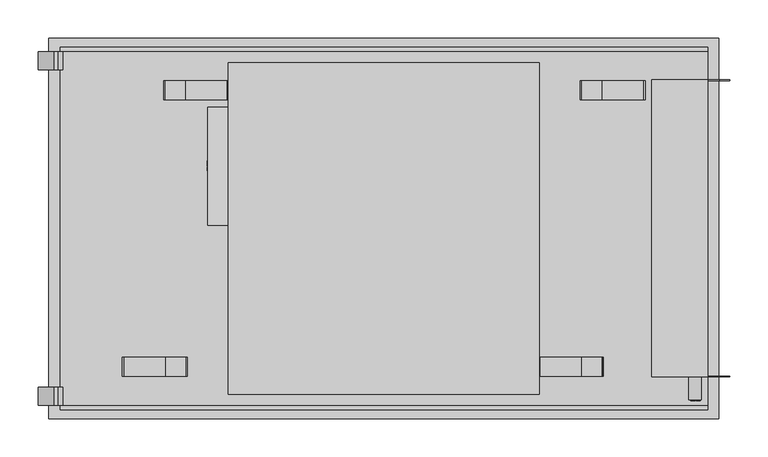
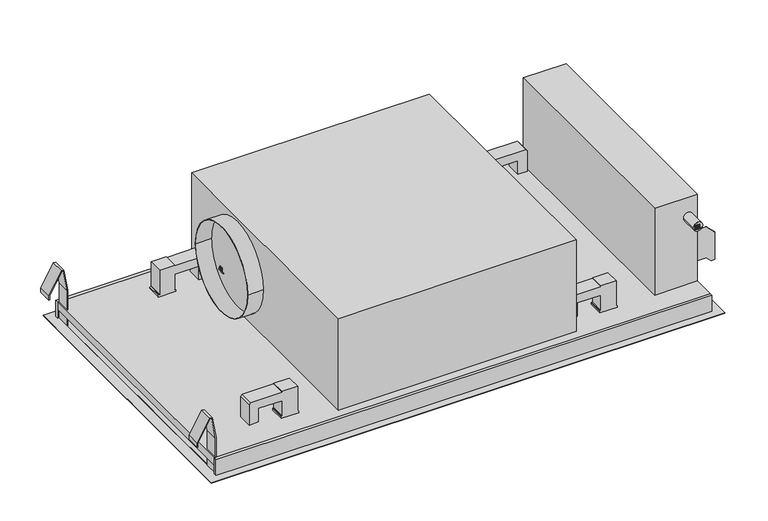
"""IFC4 building model written with IfcOpenShell, lengths in millimetres: proxy geometry, 12549640_D_DAC4943EXTA_EDST : 28C4943S_D_12549640_DAC4943EXTA_EDST."""

from ifc_helpers import new_model, si_unit, point, frame, frame_2d, origin, origin_with_axes, place, context, project, spatial, polyline, circle_curve, ellipse_curve, trimmed, segment, composite_curve, outline, extrude, faceted_brep, source, transform, mapped, element, save
from ifc_brep_helpers import plane_surface, cylinder_surface, revolved_surface, extruded_surface, advanced_brep


def specialty_equipment_e1496326(model_context):
    return source(origin(), model_context, "Body", "SolidModel", [
        extrude(outline(polyline([(0.0, 0.0), (1.1495, 0.0), (1.1495, 6.3555), (0.0, 6.3555), (0.0, 7.9515), (4.18, 7.9515), (4.18, 6.3555), (3.04, 6.3555), (3.04, 2.3238752), (7.2865, 7.9515), (11.552, 2.1987777), (11.552, 6.3555), (10.3835, 6.3555), (10.3835, 7.9515), (17.9645, 7.9515), (17.9645, 6.3555), (16.758, 6.3555), (16.758, 0.0), (17.9645, 0.0), (17.9645, -1.5485), (12.179, -1.5485), (9.405, 2.014), (6.6215, -1.5485), (0.0, -1.5485), (0.0, 0.0)])), frame((-394.9682202, 221.9339142, 5.9781829), z_axis=(-0.25881904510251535, 0.0, 0.9659258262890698), x_axis=(0.0, 1.0, 0.0)), (0.0, 0.0, 1.0), 1.0),
        extrude(outline(polyline([(0.0, 0.0), (1.14, 0.0), (1.14, 6.3555), (0.0, 6.3555), (0.0, 7.9515), (7.7045, 7.9515), (7.7045, 6.3555), (6.536, 6.3555), (6.536, -1.5485), (0.0, -1.5485), (0.0, 0.0)])), frame((-394.9682202, 260.4849142, 5.9781829), z_axis=(-0.25881904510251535, 0.0, 0.9659258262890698), x_axis=(0.0, 1.0, 0.0)), (0.0, 0.0, 1.0), 1.0),
        extrude(outline(polyline([(0.0, 0.0), (1.6999427, 0.0), (1.7088618, -3.5531031), (0.012954, -3.5617037), (0.0, 0.0)])), frame((-394.0138855, 243.2139142, 6.2338962), z_axis=(-0.25881904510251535, 0.0, 0.9659258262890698), x_axis=(-0.8744764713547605, 0.42472021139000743, -0.23431526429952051)), (0.0, 0.0, 1.0), 1.0),
        extrude(outline(polyline([(0.5859016, 2.8667553), (2.1254061, 3.588992), (2.6055523, 2.5655224), (6.1317919, 4.2198077), (5.6516457, 5.2432772), (7.0965438, 5.9211306), (10.2800342, -0.8647304), (8.835136, -1.5425838), (8.3670943, -0.544916), (3.3013503, -2.921438), (0.5859016, 2.8667553)])), frame((-394.0138855, 243.2139142, 6.2338962), z_axis=(-0.25881904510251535, 0.0, 0.9659258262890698), x_axis=(-0.8744764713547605, 0.42472021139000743, -0.23431526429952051)), (0.0, 0.0, 1.0), 1.0),
        advanced_brep(
        [(-400.4739974, 253.5974142, 4.5029144), (-399.5471916, 253.5974142, 4.7512513), (-399.5471916, 259.9529142, 4.7512513), (-399.5471916, 248.8949142, 4.7512513), (-402.6487794, 251.5074142, 3.9201833), (-400.4739974, 259.7914142, 4.5029144), (-400.4739974, 256.9224142, 4.5029144), (-401.5017425, 254.6614142, 4.2275309), (-398.3726258, 253.5974142, 5.0659752), (-397.3724096, 253.5974142, 5.3339823), (-397.3724096, 255.2219142, 5.3339823), (-398.3726258, 255.2219142, 5.0659752), (-400.7328165, 253.5974142, 5.4688402), (-401.7605616, 254.6614142, 5.1934567), (-400.7328165, 256.9224142, 5.4688402), (-400.7328165, 259.7914142, 5.4688402), (-402.9075985, 251.5074142, 4.8861091), (-399.8060106, 248.8949142, 5.7171771), (-399.8060106, 259.9529142, 5.7171771), (-399.8060106, 253.5974142, 5.7171771), (-398.6314448, 253.5974142, 6.031901), (-398.6314448, 255.2219142, 6.031901), (-397.6312286, 255.2219142, 6.2999082), (-397.6312286, 253.5974142, 6.2999082)],
        [
            (0, 1),
            (1, 2),
            (2, 3, ellipse_curve(frame((-399.5471916, 254.4239142, 4.7512513), z_axis=(0.25881904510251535, 0.0, -0.9659258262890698), x_axis=(0.0, -1.0, 0.0)), 5.529, 4.5695)),
            (3, 4, circle_curve(frame((-399.2351976, 252.571466, 4.8348498), z_axis=(0.25881904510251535, 0.0, -0.9659258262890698), x_axis=(-0.9659258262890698, 0.0, -0.25881904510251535)), 3.690713)),
            (4, 5, circle_curve(frame((-396.8126556, 254.3132316, 5.483968), z_axis=(0.25881904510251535, 0.0, -0.9659258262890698), x_axis=(-0.9659258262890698, 0.0, -0.25881904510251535)), 6.6617096)),
            (5, 6),
            (6, 7, circle_curve(frame((-399.620602, 255.1257966, 4.731581), z_axis=(-0.25881904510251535, 0.0, 0.9659258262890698), x_axis=(-0.9659258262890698, 0.0, -0.25881904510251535)), 2.0021007)),
            (7, 0, circle_curve(frame((-400.4739974, 254.6614142, 4.5029144), z_axis=(-0.25881904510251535, 0.0, 0.9659258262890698), x_axis=(-0.9659258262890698, 0.0, -0.25881904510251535)), 1.064)),
            (8, 9),
            (9, 10, circle_curve(frame((-397.3724096, 254.4096642, 5.3339823), z_axis=(-0.25881904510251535, 0.0, 0.9659258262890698), x_axis=(-0.9659258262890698, 0.0, -0.25881904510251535)), 0.81225)),
            (10, 11),
            (11, 8),
            (12, 13, circle_curve(frame((-400.7328165, 254.6614142, 5.4688402), z_axis=(0.25881904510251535, 0.0, -0.9659258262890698), x_axis=(-0.9659258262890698, 0.0, -0.25881904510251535)), 1.064)),
            (13, 14, circle_curve(frame((-399.879421, 255.1257966, 5.6975068), z_axis=(0.25881904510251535, 0.0, -0.9659258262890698), x_axis=(-0.9659258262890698, 0.0, -0.25881904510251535)), 2.0021007)),
            (14, 15),
            (15, 16, circle_curve(frame((-397.0714746, 254.3132316, 6.4498938), z_axis=(-0.25881904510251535, 0.0, 0.9659258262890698), x_axis=(-0.9659258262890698, 0.0, -0.25881904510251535)), 6.6617096)),
            (16, 17, circle_curve(frame((-399.4940166, 252.571466, 5.8007756), z_axis=(-0.25881904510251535, 0.0, 0.9659258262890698), x_axis=(-0.9659258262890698, 0.0, -0.25881904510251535)), 3.690713)),
            (17, 18, ellipse_curve(frame((-399.8060106, 254.4239142, 5.7171771), z_axis=(-0.25881904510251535, 0.0, 0.9659258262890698), x_axis=(0.0, -1.0, 0.0)), 5.529, 4.5695)),
            (18, 19),
            (19, 12),
            (20, 21),
            (21, 22),
            (22, 23, circle_curve(frame((-397.6312286, 254.4096642, 6.2999082), z_axis=(0.25881904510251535, 0.0, -0.9659258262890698), x_axis=(-0.9659258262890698, 0.0, -0.25881904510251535)), 0.81225)),
            (23, 20),
            (0, 12),
            (19, 1),
            (18, 2),
            (5, 15),
            (14, 6),
            (17, 3),
            (13, 7),
            (16, 4),
            (8, 20),
            (23, 9),
            (22, 10),
            (21, 11),
        ],
        [
            plane_surface(frame((-399.5471916, 253.5974142, 4.7512513), z_axis=(0.25881904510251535, 0.0, -0.9659258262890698), x_axis=(0.9659258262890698, 0.0, 0.25881904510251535))),
            plane_surface(frame((-399.8060106, 253.5974142, 5.7171771), z_axis=(-0.25881904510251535, 0.0, 0.9659258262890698), x_axis=(-0.9659258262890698, 0.0, -0.25881904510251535))),
            plane_surface(frame((-400.4739974, 253.5974142, 4.5029144), z_axis=(0.0, 1.0000000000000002, 0.0), x_axis=(-0.2588190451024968, 0.0, 0.9659258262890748))),
            plane_surface(frame((-399.5471916, 253.5974142, 4.7512513), z_axis=(-0.9659258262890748, 0.0, -0.2588190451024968), x_axis=(-0.2588190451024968, 0.0, 0.9659258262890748))),
            plane_surface(frame((-400.4739974, 259.7914142, 4.5029144), z_axis=(0.9659258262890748, 0.0, 0.2588190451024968), x_axis=(-0.2588190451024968, 0.0, 0.9659258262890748))),
            extruded_surface(trimmed(ellipse_curve(frame((-400.0648297, 254.4239142, 6.6831029), z_axis=(0.25881904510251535, 0.0, -0.9659258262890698), x_axis=(0.0, -1.0, 0.0)), 5.529, 4.5695), [point((-400.0648297, 259.9529142, 6.6831029))], [point((-400.0648297, 248.8949142, 6.6831029))], True, "CARTESIAN"), (0.25881910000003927, 0.0, -0.9659258), 0.999999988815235),
            revolved_surface(polyline([(-401.81330178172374, 255.1257966, 5.179325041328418), (-401.55448273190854, 255.1257966, 4.213399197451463)]), (-399.879421, 255.1257966, 5.6975068), (-0.25881904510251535, 0.0, 0.9659258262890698)),
            revolved_surface(polyline([(-401.76056157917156, 254.6614142, 5.193456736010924), (-401.50174252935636, 254.6614142, 4.227530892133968)]), (-400.7328165, 254.6614142, 5.4688402), (-0.25881904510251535, 0.0, 0.9659258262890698)),
            cylinder_surface(frame((-399.4940166, 252.571466, 5.8007756), z_axis=(0.25881904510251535, 0.0, -0.9659258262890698), x_axis=(-0.9659258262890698, 0.0, -0.25881904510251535)), 3.690713),
            cylinder_surface(frame((-397.0714746, 254.3132316, 6.4498938), z_axis=(0.25881904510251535, 0.0, -0.9659258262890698), x_axis=(-0.9659258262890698, 0.0, -0.25881904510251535)), 6.6617096),
            plane_surface(frame((-398.3726258, 253.5974142, 5.0659752), z_axis=(0.0, 1.0000000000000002, 0.0), x_axis=(-0.2588190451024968, 0.0, 0.9659258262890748))),
            revolved_surface(polyline([(-398.41580185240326, 254.4096642, 6.089682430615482), (-398.15698279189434, 254.4096642, 5.123756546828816)]), (-397.6312286, 254.4096642, 6.2999082), (-0.25881904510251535, 0.0, 0.9659258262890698)),
            plane_surface(frame((-397.3724096, 255.2219142, 5.3339823), z_axis=(0.0, -1.0000000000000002, 0.0), x_axis=(-0.2588190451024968, 0.0, 0.9659258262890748))),
            plane_surface(frame((-398.3726258, 255.2219142, 5.0659752), z_axis=(0.9659258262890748, 0.0, 0.2588190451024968), x_axis=(-0.2588190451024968, 0.0, 0.9659258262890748))),
        ],
        [
            (0, [[1, 2, 3, 4, 5, 6, 7, 8], [9, 10, 11, 12]]),
            (1, [[13, 14, 15, 16, 17, 18, 19, 20], [21, 22, 23, 24]]),
            (2, [[-1, 25, -20, 26]]),
            (3, [[-2, -26, -19, 27]]),
            (4, [[-6, 28, -15, 29]]),
            (5, [[-3, -27, -18, 30]]),
            (6, [[-7, -29, -14, 31]]),
            (7, [[-8, -31, -13, -25]]),
            (8, [[-4, -30, -17, 32]]),
            (9, [[-5, -32, -16, -28]]),
            (10, [[-9, 33, -24, 34]]),
            (11, [[-10, -34, -23, 35]]),
            (12, [[-11, -35, -22, 36]]),
            (13, [[-12, -36, -21, -33]]),
        ],
    ),
        advanced_brep(
        [(-400.4739974, 273.4239142, 4.5029144), (-399.5471916, 273.4239142, 4.7512513), (-399.5471916, 279.7794142, 4.7512513), (-399.5471916, 268.7214142, 4.7512513), (-402.6487794, 271.3339142, 3.9201833), (-400.4739974, 279.6179142, 4.5029144), (-400.4739974, 276.7489142, 4.5029144), (-401.5017425, 274.4879142, 4.2275309), (-398.3726258, 273.4239142, 5.0659752), (-397.3724096, 273.4239142, 5.3339823), (-397.3724096, 275.0484142, 5.3339823), (-398.3726258, 275.0484142, 5.0659752), (-400.7328165, 273.4239142, 5.4688402), (-401.7605616, 274.4879142, 5.1934567), (-400.7328165, 276.7489142, 5.4688402), (-400.7328165, 279.6179142, 5.4688402), (-402.9075985, 271.3339142, 4.8861091), (-399.8060106, 268.7214142, 5.7171771), (-399.8060106, 279.7794142, 5.7171771), (-399.8060106, 273.4239142, 5.7171771), (-398.6314448, 273.4239142, 6.031901), (-398.6314448, 275.0484142, 6.031901), (-397.6312286, 275.0484142, 6.2999082), (-397.6312286, 273.4239142, 6.2999082)],
        [
            (0, 1),
            (1, 2),
            (2, 3, ellipse_curve(frame((-399.5471916, 274.2504142, 4.7512513), z_axis=(0.25881904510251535, 0.0, -0.9659258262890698), x_axis=(0.0, -1.0, 0.0)), 5.529, 4.5695)),
            (3, 4, circle_curve(frame((-399.2351976, 272.397966, 4.8348498), z_axis=(0.25881904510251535, 0.0, -0.9659258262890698), x_axis=(-0.9659258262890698, 0.0, -0.25881904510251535)), 3.690713)),
            (4, 5, circle_curve(frame((-396.8126556, 274.1397316, 5.483968), z_axis=(0.25881904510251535, 0.0, -0.9659258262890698), x_axis=(-0.9659258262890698, 0.0, -0.25881904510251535)), 6.6617096)),
            (5, 6),
            (6, 7, circle_curve(frame((-399.620602, 274.9522966, 4.731581), z_axis=(-0.25881904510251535, 0.0, 0.9659258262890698), x_axis=(-0.9659258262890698, 0.0, -0.25881904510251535)), 2.0021007)),
            (7, 0, circle_curve(frame((-400.4739974, 274.4879142, 4.5029144), z_axis=(-0.25881904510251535, 0.0, 0.9659258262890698), x_axis=(-0.9659258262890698, 0.0, -0.25881904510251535)), 1.064)),
            (8, 9),
            (9, 10, circle_curve(frame((-397.3724096, 274.2361642, 5.3339823), z_axis=(-0.25881904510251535, 0.0, 0.9659258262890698), x_axis=(-0.9659258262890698, 0.0, -0.25881904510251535)), 0.81225)),
            (10, 11),
            (11, 8),
            (12, 13, circle_curve(frame((-400.7328165, 274.4879142, 5.4688402), z_axis=(0.25881904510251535, 0.0, -0.9659258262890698), x_axis=(-0.9659258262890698, 0.0, -0.25881904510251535)), 1.064)),
            (13, 14, circle_curve(frame((-399.879421, 274.9522966, 5.6975068), z_axis=(0.25881904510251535, 0.0, -0.9659258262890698), x_axis=(-0.9659258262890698, 0.0, -0.25881904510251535)), 2.0021007)),
            (14, 15),
            (15, 16, circle_curve(frame((-397.0714746, 274.1397316, 6.4498938), z_axis=(-0.25881904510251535, 0.0, 0.9659258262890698), x_axis=(-0.9659258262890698, 0.0, -0.25881904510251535)), 6.6617096)),
            (16, 17, circle_curve(frame((-399.4940166, 272.397966, 5.8007756), z_axis=(-0.25881904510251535, 0.0, 0.9659258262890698), x_axis=(-0.9659258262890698, 0.0, -0.25881904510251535)), 3.690713)),
            (17, 18, ellipse_curve(frame((-399.8060106, 274.2504142, 5.7171771), z_axis=(-0.25881904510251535, 0.0, 0.9659258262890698), x_axis=(0.0, -1.0, 0.0)), 5.529, 4.5695)),
            (18, 19),
            (19, 12),
            (20, 21),
            (21, 22),
            (22, 23, circle_curve(frame((-397.6312286, 274.2361642, 6.2999082), z_axis=(0.25881904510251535, 0.0, -0.9659258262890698), x_axis=(-0.9659258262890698, 0.0, -0.25881904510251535)), 0.81225)),
            (23, 20),
            (0, 12),
            (19, 1),
            (18, 2),
            (5, 15),
            (14, 6),
            (17, 3),
            (13, 7),
            (16, 4),
            (8, 20),
            (23, 9),
            (22, 10),
            (21, 11),
        ],
        [
            plane_surface(frame((-399.5471916, 273.4239142, 4.7512513), z_axis=(0.25881904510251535, 0.0, -0.9659258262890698), x_axis=(0.9659258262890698, 0.0, 0.25881904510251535))),
            plane_surface(frame((-399.8060106, 273.4239142, 5.7171771), z_axis=(-0.25881904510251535, 0.0, 0.9659258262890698), x_axis=(-0.9659258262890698, 0.0, -0.25881904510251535))),
            plane_surface(frame((-400.4739974, 273.4239142, 4.5029144), z_axis=(0.0, 1.0000000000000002, 0.0), x_axis=(-0.2588190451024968, 0.0, 0.9659258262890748))),
            plane_surface(frame((-399.5471916, 273.4239142, 4.7512513), z_axis=(-0.9659258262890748, 0.0, -0.2588190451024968), x_axis=(-0.2588190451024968, 0.0, 0.9659258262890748))),
            plane_surface(frame((-400.4739974, 279.6179142, 4.5029144), z_axis=(0.9659258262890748, 0.0, 0.2588190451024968), x_axis=(-0.2588190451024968, 0.0, 0.9659258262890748))),
            extruded_surface(trimmed(ellipse_curve(frame((-400.0648297, 274.2504142, 6.6831029), z_axis=(0.25881904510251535, 0.0, -0.9659258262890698), x_axis=(0.0, -1.0, 0.0)), 5.529, 4.5695), [point((-400.0648297, 279.7794142, 6.6831029))], [point((-400.0648297, 268.7214142, 6.6831029))], True, "CARTESIAN"), (0.25881910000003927, 0.0, -0.9659258), 0.999999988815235),
            revolved_surface(polyline([(-401.81330178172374, 274.9522966, 5.179325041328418), (-401.55448273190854, 274.9522966, 4.213399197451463)]), (-399.879421, 274.9522966, 5.6975068), (-0.25881904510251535, 0.0, 0.9659258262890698)),
            revolved_surface(polyline([(-401.76056157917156, 274.4879142, 5.193456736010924), (-401.50174252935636, 274.4879142, 4.227530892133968)]), (-400.7328165, 274.4879142, 5.4688402), (-0.25881904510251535, 0.0, 0.9659258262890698)),
            cylinder_surface(frame((-399.4940166, 272.397966, 5.8007756), z_axis=(0.25881904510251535, 0.0, -0.9659258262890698), x_axis=(-0.9659258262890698, 0.0, -0.25881904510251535)), 3.690713),
            cylinder_surface(frame((-397.0714746, 274.1397316, 6.4498938), z_axis=(0.25881904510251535, 0.0, -0.9659258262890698), x_axis=(-0.9659258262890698, 0.0, -0.25881904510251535)), 6.6617096),
            plane_surface(frame((-398.3726258, 273.4239142, 5.0659752), z_axis=(0.0, 1.0000000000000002, 0.0), x_axis=(-0.2588190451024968, 0.0, 0.9659258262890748))),
            revolved_surface(polyline([(-398.41580185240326, 274.2361642, 6.089682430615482), (-398.15698279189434, 274.2361642, 5.123756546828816)]), (-397.6312286, 274.2361642, 6.2999082), (-0.25881904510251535, 0.0, 0.9659258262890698)),
            plane_surface(frame((-397.3724096, 275.0484142, 5.3339823), z_axis=(0.0, -1.0000000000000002, 0.0), x_axis=(-0.2588190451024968, 0.0, 0.9659258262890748))),
            plane_surface(frame((-398.3726258, 275.0484142, 5.0659752), z_axis=(0.9659258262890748, 0.0, 0.2588190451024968), x_axis=(-0.2588190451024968, 0.0, 0.9659258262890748))),
        ],
        [
            (0, [[1, 2, 3, 4, 5, 6, 7, 8], [9, 10, 11, 12]]),
            (1, [[13, 14, 15, 16, 17, 18, 19, 20], [21, 22, 23, 24]]),
            (2, [[-1, 25, -20, 26]]),
            (3, [[-2, -26, -19, 27]]),
            (4, [[-6, 28, -15, 29]]),
            (5, [[-3, -27, -18, 30]]),
            (6, [[-7, -29, -14, 31]]),
            (7, [[-8, -31, -13, -25]]),
            (8, [[-4, -30, -17, 32]]),
            (9, [[-5, -32, -16, -28]]),
            (10, [[-9, 33, -24, 34]]),
            (11, [[-10, -34, -23, 35]]),
            (12, [[-11, -35, -22, 36]]),
            (13, [[-12, -36, -21, -33]]),
        ],
    ),
        extrude(outline(polyline([(425.1935243, 445.0), (425.1935243, 55.0), (351.6000061, 55.0), (351.6000061, 445.0), (425.1935243, 445.0)])), frame((0.0, 0.0, 30.0), z_axis=(0.0, 0.0, 1.0), x_axis=(1.0, 0.0, 0.0)), (0.0, 0.0, 1.0), 157.6000061),
        extrude(outline(composite_curve([segment(trimmed(circle_curve(frame_2d((332.0, 113.0)), 77.5), [point((254.5, 113.0))], [point((409.5, 113.0))], False, "CARTESIAN"), True, "CONTINUOUS"), segment(trimmed(circle_curve(frame_2d((332.0, 113.0)), 77.5), [point((409.5, 113.0))], [point((254.5, 113.0))], False, "CARTESIAN"), True, "CONTINUOUS")], self_intersect=False), holes=[composite_curve([segment(trimmed(circle_curve(frame_2d((332.0, 113.0)), 76.5), [point((255.5, 113.0))], [point((408.5, 113.0))], True, "CARTESIAN"), True, "CONTINUOUS"), segment(trimmed(circle_curve(frame_2d((332.0, 113.0)), 76.5), [point((408.5, 113.0))], [point((255.5, 113.0))], True, "CARTESIAN"), True, "CONTINUOUS")], self_intersect=False)]), frame((-231.0, 0.0, 0.0), z_axis=(1.0, 0.0, 0.0), x_axis=(0.0, 1.0, 0.0)), (0.0, 0.0, 1.0), 27.0),
        extrude(outline(polyline([(204.0, 32.1999969), (-204.0, 32.1999969), (-204.0, 467.8000031), (204.0, 467.8000031), (204.0, 32.1999969)])), frame((0.0, 0.0, 30.0), z_axis=(0.0, 0.0, 1.0), x_axis=(1.0, 0.0, 0.0)), (0.0, 0.0, 1.0), 166.0),
        extrude(outline(polyline([(122.8000031, 440.5), (122.8000031, 425.1935243), (66.8000031, 425.1935243), (66.8000031, 440.5), (58.7999992, 448.5000038), (58.7999992, 454.5), (108.8000031, 454.5), (122.8000031, 440.5)])), frame((0.0, 55.0, 0.0), z_axis=(0.0, 1.0, 0.0), x_axis=(0.0, 0.0, 1.0)), (0.0, 0.0, 1.0), 0.8000031),
        extrude(outline(polyline([(122.8000031, 440.5), (122.8000031, 425.1935243), (66.8000031, 425.1935243), (66.8000031, 440.5), (58.7999992, 448.5000038), (58.7999992, 454.5), (108.8000031, 454.5), (122.8000031, 440.5)])), frame((0.0, 444.0, 0.0), z_axis=(0.0, 1.0, 0.0), x_axis=(0.0, 0.0, 1.0)), (0.0, 0.0, 1.0), 1.0),
        extrude(outline(polyline([(0.8, -421.5250244), (64.8559268, -421.5250244), (103.4362253, -428.327772), (104.1754532, -432.5201416), (66.657778, -454.0250244), (58.5929146, -454.0250244), (58.5929146, -452.7750244), (66.3249664, -452.7750244), (103.5504532, -431.4376221), (103.1458864, -429.5883804), (64.5054245, -422.7750244), (0.8, -422.7750244), (0.8, -421.5250244)])), frame((0.0, 17.8, 0.0), z_axis=(0.0, 1.0, 0.0), x_axis=(0.0, 0.0, 1.0)), (0.0, 0.0, 1.0), 24.0),
        extrude(outline(polyline([(0.8, -421.5250244), (64.8559268, -421.5250244), (103.4362253, -428.327772), (104.1754532, -432.5201416), (66.657778, -454.0250244), (58.5929146, -454.0250244), (58.5929146, -452.7750244), (66.3249664, -452.7750244), (103.5504532, -431.4376221), (103.1458864, -429.5883804), (64.5054245, -422.7750244), (0.8, -422.7750244), (0.8, -421.5250244)])), frame((0.0, 458.2, 0.0), z_axis=(0.0, 1.0, 0.0), x_axis=(0.0, 0.0, 1.0)), (0.0, 0.0, 1.0), 24.0),
        extrude(outline(polyline([(37.2999992, 203.2000122), (37.2999992, 219.2000122), (61.7999992, 219.2000122), (61.7999992, 260.2000122), (34.0, 260.2000122), (34.0, 259.2000122), (33.0, 258.2000122), (30.0, 258.2000122), (30.0, 288.2000122), (33.0, 288.2000122), (34.0, 287.2000122), (34.0, 286.2000122), (78.3000031, 286.2000122), (78.3000031, 260.2000122), (76.8000031, 260.2000122), (76.8000031, 205.7000122), (74.3000031, 203.2000122), (37.2999992, 203.2000122)])), frame((0.0, 55.8000031, 0.0), z_axis=(0.0, 1.0, 0.0), x_axis=(0.0, 0.0, 1.0)), (0.0, 0.0, 1.0), 25.1139038),
        extrude(outline(polyline([(37.2999992, 343.2000122), (74.3000031, 343.2000122), (76.8000031, 340.7000122), (76.8000031, 286.2000122), (78.3000031, 286.2000122), (78.3000031, 260.2000122), (34.0, 260.2000122), (34.0, 259.2000122), (33.0, 258.2000122), (30.0, 258.2000122), (30.0, 288.2000122), (33.0, 288.2000122), (34.0, 287.2000122), (34.0, 286.2000122), (61.7999992, 286.2000122), (61.7999992, 327.2000122), (37.2999992, 327.2000122), (37.2999992, 343.2000122)])), frame((0.0, 419.0860931, 0.0), z_axis=(0.0, 1.0, 0.0), x_axis=(0.0, 0.0, 1.0)), (0.0, 0.0, 1.0), 25.1139038),
        extrude(outline(polyline([(37.2999992, -343.1999817), (37.2999992, -327.1999817), (61.7999992, -327.1999817), (61.7999992, -286.1999817), (34.0, -286.1999817), (34.0, -287.1999817), (33.0, -288.1999817), (30.0, -288.1999817), (30.0, -258.1999817), (33.0, -258.1999817), (34.0, -259.1999817), (34.0, -260.1999817), (78.3000031, -260.1999817), (78.3000031, -286.1999817), (76.8000031, -286.1999817), (76.8000031, -340.6999817), (74.3000031, -343.1999817), (37.2999992, -343.1999817)])), frame((0.0, 55.8000031, 0.0), z_axis=(0.0, 1.0, 0.0), x_axis=(0.0, 0.0, 1.0)), (0.0, 0.0, 1.0), 25.1139038),
        extrude(outline(polyline([(37.2999992, -204.0), (74.3000031, -204.0), (76.8000031, -206.5), (76.8000031, -261.0), (78.3000031, -261.0), (78.3000031, -287.0), (34.0, -287.0), (34.0, -288.0), (33.0, -289.0), (30.0, -289.0), (30.0, -259.0), (33.0, -259.0), (34.0, -260.0), (34.0, -261.0), (61.7999992, -261.0), (61.7999992, -220.0), (37.2999992, -220.0), (37.2999992, -204.0)])), frame((0.0, 419.0860931, 0.0), z_axis=(0.0, 1.0, 0.0), x_axis=(0.0, 0.0, 1.0)), (0.0, 0.0, 1.0), 25.1139038),
        extrude(outline(polyline([(338.835738, 109.0), (337.7762378, 109.0), (336.8580044, 111.5114078), (333.5460854, 111.5114078), (332.6278519, 109.0), (331.5663898, 109.0), (334.7723587, 117.0365048), (335.627807, 117.0365048), (338.835738, 109.0)]), holes=[polyline([(336.4891414, 112.5159709), (335.7023644, 114.6644017), (335.2020449, 116.0319417), (334.6389402, 114.4917424), (333.9129864, 112.5159709), (336.4891414, 112.5159709)])]), frame((-232.0, 0.0, 0.0), z_axis=(1.0, 0.0, 0.0), x_axis=(0.0, 1.0, 0.0)), (0.0, 0.0, 1.0), 1.0),
        extrude(outline(polyline([(330.4931553, 109.0), (325.4703398, 109.0), (325.4703398, 110.0045631), (329.4885922, 110.0045631), (329.4885922, 117.0365048), (330.4931553, 117.0365048), (330.4931553, 109.0)])), frame((-232.0, 0.0, 0.0), z_axis=(1.0, 0.0, 0.0), x_axis=(0.0, 1.0, 0.0)), (0.0, 0.0, 1.0), 1.0),
        extrude(outline(composite_curve([segment(trimmed(circle_curve(frame_2d((152.6000061, 408.6768188)), 8.0), [point((152.6000061, 400.6768188))], [point((152.6000061, 416.6768188))], False, "CARTESIAN"), True, "CONTINUOUS"), segment(trimmed(circle_curve(frame_2d((152.6000061, 408.6768188)), 8.0), [point((152.6000061, 416.6768188))], [point((152.6000061, 400.6768188))], False, "CARTESIAN"), True, "CONTINUOUS")], self_intersect=False)), frame((0.0, 25.0, 0.0), z_axis=(0.0, 1.0, 0.0), x_axis=(0.0, 0.0, 1.0)), (0.0, 0.0, 1.0), 30.0),
        extrude(outline(polyline([(148.6000061, 402.7750106), (148.6000061, 408.6768188), (149.6045692, 408.6768188), (149.6045692, 403.7795737), (152.2415473, 403.7795737), (152.2415473, 408.3001077), (153.2461104, 408.3001077), (153.2461104, 403.7795737), (155.6319478, 403.7795737), (155.6319478, 408.5512485), (156.6365109, 408.5512485), (156.6365109, 402.7750106), (148.6000061, 402.7750106)])), frame((0.0, 24.0, 0.0), z_axis=(0.0, 1.0, 0.0), x_axis=(0.0, 0.0, 1.0)), (0.0, 0.0, 1.0), 1.0),
        extrude(outline(polyline([(148.6000061, 410.1836635), (148.6000061, 415.206479), (149.6045692, 415.206479), (149.6045692, 411.1882266), (156.6365109, 411.1882266), (156.6365109, 410.1836635), (148.6000061, 410.1836635)])), frame((0.0, 24.0, 0.0), z_axis=(0.0, 1.0, 0.0), x_axis=(0.0, 0.0, 1.0)), (0.0, 0.0, 1.0), 1.0),
        extrude(outline(polyline([(440.0, 500.0), (440.0, 0.0), (-440.0, 0.0), (-440.0, 500.0), (440.0, 500.0)]), holes=[polyline([(420.0, 482.6999969), (-422.2000122, 482.6999969), (-422.2000122, 17.3000031), (420.0, 17.3000031), (420.0, 482.6999969)])]), origin_with_axes(), (0.0, 0.0, 1.0), 0.8),
        faceted_brep([(421.7615168, 17.3000031, 0.0), (421.9698455, 17.3000031, 0.7723983), (418.7954399, 17.3000031, 0.8), (-421.9698448, 17.3000031, 0.772397), (-421.7615112, 17.3000031, 0.0), (-418.7955102, 17.3000031, 0.8), (-421.7615112, 482.6999969, 0.0), (-421.9698448, 482.6999969, 0.772397), (-418.7955102, 482.6999969, 0.8), (421.9698455, 482.6999969, 0.7723983), (421.7615168, 482.6999969, 0.0), (418.7954399, 482.6999969, 0.8), (-361.8279114, 17.3000031, 16.1654968), (-361.8279114, 482.6999969, 16.1654968), (361.8263838, 482.6999969, 16.1654968), (361.8263838, 17.3000031, 16.1654968), (356.2323914, 197.7705688, 16.1654968), (344.6442261, 197.7705688, 16.1654968), (344.6442261, 171.9410553, 16.1654968), (356.2323914, 171.9410553, 16.1654968), (356.2323914, 224.0850792, 16.1654968), (356.2323914, 275.9145947, 16.1654968), (344.6442261, 275.9145947, 16.1654968), (344.6442261, 224.0850792, 16.1654968), (356.2323914, 276.1570797, 16.1654968), (356.2323914, 301.9865952, 16.1654968), (344.6442261, 301.9865952, 16.1654968), (344.6442261, 276.1570797, 16.1654968), (356.2323914, 302.2290802, 16.1654968), (356.2323914, 328.0585937, 16.1654968), (344.6442261, 328.0585937, 16.1654968), (344.6442261, 302.2290802, 16.1654968), (356.2323914, 198.0130539, 16.1654968), (356.2323914, 223.8425694, 16.1654968), (344.6442261, 223.8425694, 16.1654968), (344.6442261, 198.0130539, 16.1654968), (361.9323766, 482.6999969, 16.9654968), (361.9323766, 17.3000031, 16.9654968), (-361.9339068, 482.6999969, 16.9654968), (-361.9339068, 17.3000031, 16.9654968), (425.1935243, 487.8000031, 0.8), (425.1935243, 487.8000031, 30.0), (425.1935243, 482.6999969, 30.0), (425.1935243, 482.6999969, 0.8), (-425.1935243, 487.8000031, 0.8), (-425.1935243, 482.6999969, 0.8), (-425.1935243, 482.6999969, 30.0), (-425.1935243, 487.8000031, 30.0), (425.1935243, 12.1999969, 0.8), (425.1935243, 17.3000031, 0.8), (425.1935243, 17.3000031, 30.0), (425.1935243, 12.1999969, 30.0), (-425.1935243, 12.1999969, 0.8), (-425.1935243, 12.1999969, 30.0), (-425.1935243, 17.3000031, 30.0), (-425.1935243, 17.3000031, 0.8), (344.6442261, 302.2290802, 14.6286736), (356.2323914, 302.2290802, 14.6286736), (344.6442261, 328.0585937, 14.6286736), (356.2323914, 328.0585937, 14.6286736), (344.6442261, 276.1570797, 14.6286736), (356.2323914, 276.1570797, 14.6286736), (344.6442261, 301.9865952, 14.6286736), (356.2323914, 301.9865952, 14.6286736), (344.6442261, 224.0850792, 14.6286736), (356.2323914, 224.0850792, 14.6286736), (356.2323914, 197.7705688, 14.6286736), (356.2323914, 171.9410553, 14.6286736), (344.6442261, 171.9410553, 14.6286736), (344.6442261, 197.7705688, 14.6286736), (356.2323914, 198.0130539, 14.6286736), (344.6442261, 198.0130539, 14.6286736), (344.6442261, 223.8425694, 14.6286736), (356.2323914, 223.8425694, 14.6286736), (344.6442261, 275.9145947, 14.6286736), (356.2323914, 275.9145947, 14.6286736)], [[[0, 1, 2]], [[3, 4, 5]], [[6, 7, 8]], [[9, 10, 11]], [[12, 13, 14, 15], [16, 17, 18, 19], [20, 21, 22, 23], [24, 25, 26, 27], [28, 29, 30, 31], [32, 33, 34, 35]], [[15, 14, 11, 10, 0, 2]], [[1, 0, 10, 9]], [[1, 9, 36, 37]], [[37, 36, 38, 39]], [[39, 38, 7, 3]], [[4, 3, 7, 6]], [[13, 12, 5, 4, 6, 8]], [[40, 41, 42, 43]], [[44, 45, 46, 47]], [[41, 40, 44, 47]], [[42, 41, 47, 46]], [[43, 42, 46, 45, 7, 38, 36, 9]], [[8, 11, 14, 13]], [[40, 43, 9, 11, 8, 7, 45, 44]], [[48, 49, 50, 51]], [[52, 53, 54, 55]], [[48, 51, 53, 52]], [[51, 50, 54, 53]], [[50, 49, 1, 37, 39, 3, 55, 54]], [[2, 5, 12, 15]], [[49, 48, 52, 55, 3, 5, 2, 1]], [[56, 57, 28, 31]], [[58, 56, 31, 30]], [[59, 58, 30, 29]], [[57, 59, 29, 28]], [[60, 61, 24, 27]], [[62, 60, 27, 26]], [[63, 62, 26, 25]], [[61, 63, 25, 24]], [[64, 65, 20, 23]], [[66, 67, 68, 69]], [[70, 71, 72, 73]], [[61, 60, 62, 63]], [[65, 64, 74, 75]], [[57, 56, 58, 59]], [[66, 69, 17, 16]], [[67, 66, 16, 19]], [[71, 70, 32, 35]], [[75, 74, 22, 21]], [[69, 68, 18, 17]], [[68, 67, 19, 18]], [[70, 73, 33, 32]], [[73, 72, 34, 33]], [[72, 71, 35, 34]], [[65, 75, 21, 20]], [[74, 64, 23, 22]]]),
        extrude(outline(polyline([(425.1935243, 482.6999969), (425.1935243, 17.3000031), (-425.1935243, 17.3000031), (-425.1935243, 482.6999969), (425.1935243, 482.6999969)])), frame((0.0, 0.0, 16.9654968), z_axis=(0.0, 0.0, 1.0), x_axis=(1.0, 0.0, 0.0)), (0.0, 0.0, 1.0), 13.0345032),
        extrude(outline(polyline([(340.0, 462.4152985), (340.0, 37.5847015), (-340.0, 37.5847015), (-340.0, 462.4152985), (340.0, 462.4152985)])), frame((0.0, 0.0, 0.8), z_axis=(0.0, 0.0, 1.0), x_axis=(1.0, 0.0, 0.0)), (0.0, 0.0, 1.0), 13.8286735),
    ])


if __name__ == "__main__":
    model = new_model("IFC4")
    model_context = context("Model", 3, world=origin())
    ifc_project = project(units=[si_unit("LENGTHUNIT", "METRE", prefix="MILLI")], contexts=[model_context])
    site = spatial("IfcSite", under=ifc_project)
    building = spatial("IfcBuilding", under=site)
    placement = place(None, origin())
    specialty_equipment_shape = specialty_equipment_e1496326(model_context)
    element("IfcBuildingElementProxy", 1, Name="12549640_D_DAC4943EXTA_EDST : 28C4943S_D_12549640_DAC4943EXTA_EDST", ObjectType="12549640_D_DAC4943EXTA_EDST : 28C4943S_D_12549640_DAC4943EXTA_EDST", at=placement, inside=building, context=model_context, shape_type="MappedRepresentation", body=[
        mapped(specialty_equipment_shape, transform((0.0, 0.0, 0.0), x_axis=(1.0, 0.0, 0.0), y_axis=(0.0, 1.0, 0.0), z_axis=(0.0, 0.0, 1.0))),
    ])
    save(model, "model.ifc")
